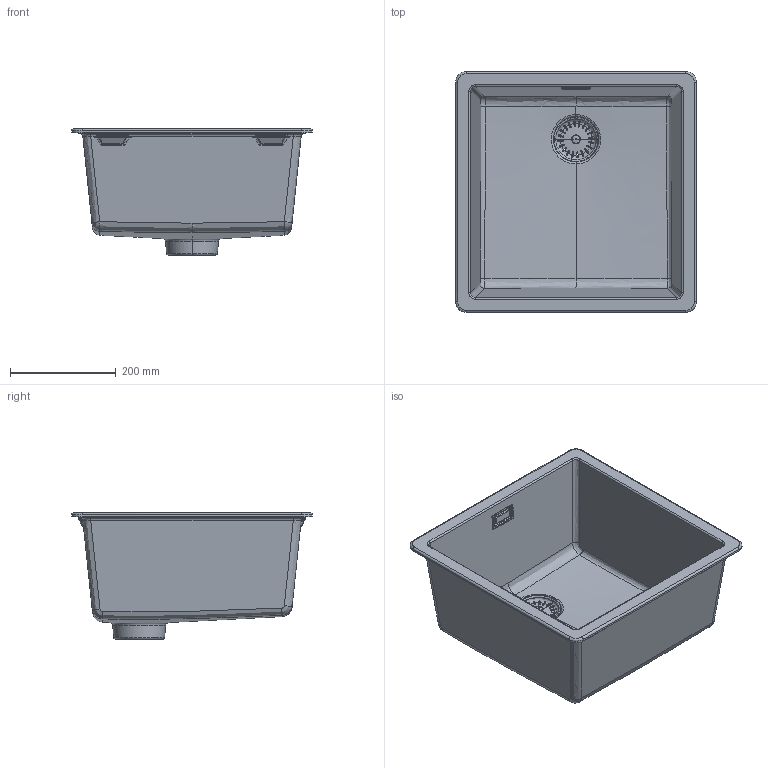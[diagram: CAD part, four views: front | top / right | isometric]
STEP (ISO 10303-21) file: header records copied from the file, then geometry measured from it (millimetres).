
FILE_DESCRIPTION(/* description */ (''),/* implementation_level */ '2;1');
FILE_NAME(/* name */ 'GREN100',/* time_stamp */ '2015-11-19T12:06:24+01:00',/* author */ (''),/* organization */ (''),/* preprocessor_version */ 'ST-DEVELOPER v15',/* originating_system */ '',/* authorisation */ '');
FILE_SCHEMA (('AUTOMOTIVE_DESIGN'));
Length unit declared in the file: millimetre
Products named in the file (1): Document
Bounding box: 456 x 456 x 238.47 mm (x, y, z)
Volume: 3803226.1 mm3; surface area: 962421.3 mm2
Topology: 3 solids, 47 shells, 521 faces, 1570 edges, 1056 vertices
Faces by surface type: bspline 435, plane 86
Entity records: 76383 total; most frequent: CARTESIAN_POINT 67608, ORIENTED_EDGE 2920, EDGE_CURVE 1564, VERTEX_POINT 1056, B_SPLINE_CURVE_WITH_KNOTS 1047, EDGE_LOOP 610, ADVANCED_FACE 521, FACE_OUTER_BOUND 521
